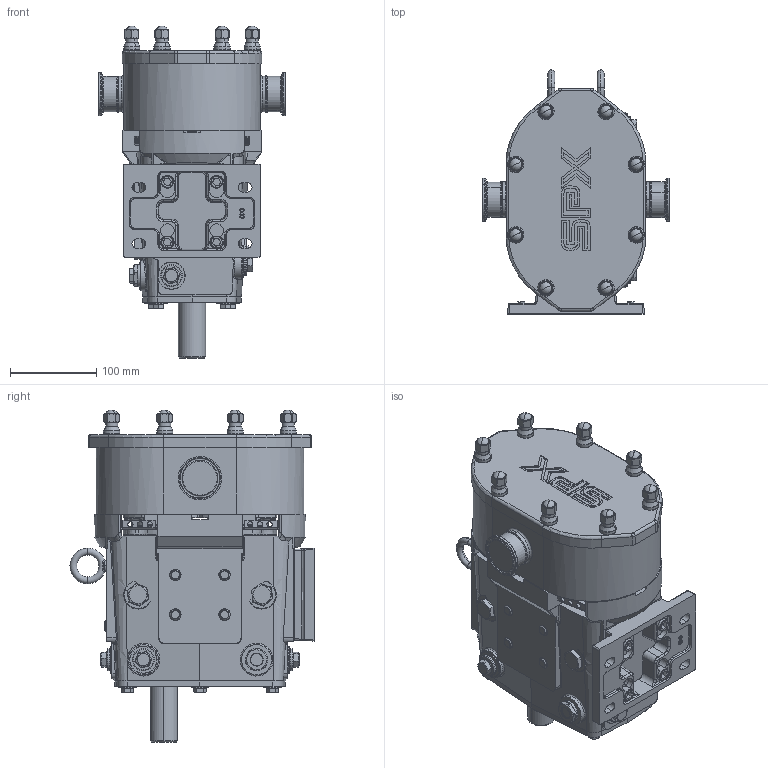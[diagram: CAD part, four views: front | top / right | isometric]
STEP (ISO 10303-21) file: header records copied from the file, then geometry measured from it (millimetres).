
FILE_DESCRIPTION (( 'STEP AP214' ), '1' );
FILE_NAME ('Model 030 Universal 3 Series.STEP', '2017-11-20T18:41:31', ( '' ), ( '' ), 'SwSTEP 2.0', 'SolidWorks 2014', '' );
FILE_SCHEMA (( 'AUTOMOTIVE_DESIGN' ));
Length unit declared in the file: inch
Products named in the file (1): Model 030 Universal 3 Series
Bounding box: 215.89 x 283.08 x 385.17 mm (x, y, z)
Volume: 8406668.1 mm3; surface area: 433978 mm2
Topology: 3 solids, 3 shells, 2325 faces, 5922 edges, 3712 vertices
Faces by surface type: plane 856, cylinder 683, torus 303, cone 268, bspline 194, sphere 21
Entity records: 78943 total; most frequent: CARTESIAN_POINT 23692, ORIENTED_EDGE 11812, DIRECTION 11531, EDGE_CURVE 5906, AXIS2_PLACEMENT_3D 4426, VERTEX_POINT 3712, VECTOR 2679, LINE 2679
